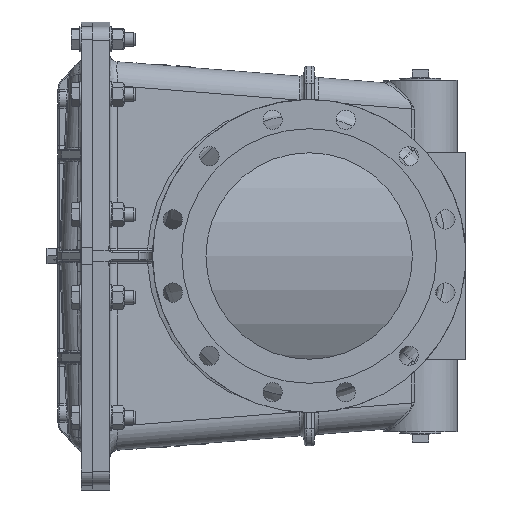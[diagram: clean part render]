
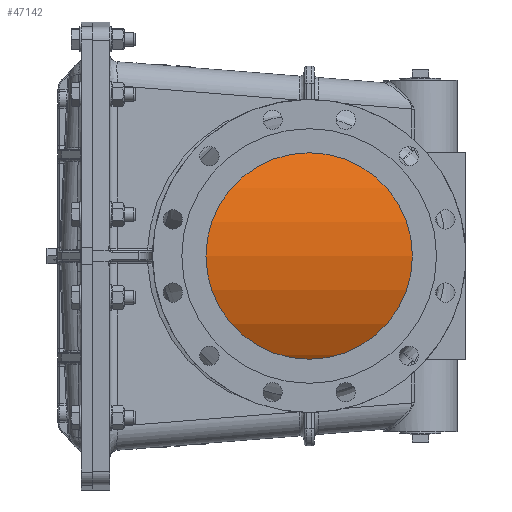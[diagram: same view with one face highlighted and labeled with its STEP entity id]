
A CAD part, left-side view. The second image highlights one B-rep face of the part: STEP entity #47142.
In plain terms, the highlighted cylindrical face has radius 289 mm (diameter 578 mm), a partial arc.
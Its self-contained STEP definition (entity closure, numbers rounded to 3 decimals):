
#2895=LINE('',#97435,#6321);
#2896=LINE('',#97437,#6322);
#6321=VECTOR('',#61193,10.);
#6322=VECTOR('',#61196,10.);
#9804=CYLINDRICAL_SURFACE('',#51383,289.);
#11965=FACE_OUTER_BOUND('',#15018,.T.);
#15018=EDGE_LOOP('',(#40382,#40383,#40384,#40385));
#18723=CIRCLE('',#51377,289.);
#18724=CIRCLE('',#51380,289.);
#22216=VERTEX_POINT('',#97405);
#22220=VERTEX_POINT('',#97414);
#22223=VERTEX_POINT('',#97424);
#22224=VERTEX_POINT('',#97426);
#28459=EDGE_CURVE('',#22216,#22220,#18723,.T.);
#28464=EDGE_CURVE('',#22224,#22223,#18724,.T.);
#28469=EDGE_CURVE('',#22220,#22224,#2895,.T.);
#28470=EDGE_CURVE('',#22216,#22223,#2896,.T.);
#40382=ORIENTED_EDGE('',*,*,#28459,.T.);
#40383=ORIENTED_EDGE('',*,*,#28469,.T.);
#40384=ORIENTED_EDGE('',*,*,#28464,.T.);
#40385=ORIENTED_EDGE('',*,*,#28470,.F.);
#47142=ADVANCED_FACE('',(#11965),#9804,.T.);
#51377=AXIS2_PLACEMENT_3D('',#97416,#61174,#61175);
#51380=AXIS2_PLACEMENT_3D('',#97427,#61184,#61185);
#51383=AXIS2_PLACEMENT_3D('',#97436,#61194,#61195);
#61174=DIRECTION('center_axis',(0.,0.,
1.));
#61175=DIRECTION('ref_axis',(0.64,0.768,0.));
#61184=DIRECTION('center_axis',(0.,0.,-1.));
#61185=DIRECTION('ref_axis',(0.64,0.768,0.));
#61193=DIRECTION('',(0.,0.,1.));
#61194=DIRECTION('center_axis',(0.,0.,1.));
#61195=DIRECTION('ref_axis',(0.64,0.768,0.));
#61196=DIRECTION('',(0.,0.,1.));
#97405=CARTESIAN_POINT('',(185.032,3.,12.));
#97414=CARTESIAN_POINT('',(-185.032,3.,12.));
#97416=CARTESIAN_POINT('Origin',(0.,-219.,12.));
#97424=CARTESIAN_POINT('',(185.032,3.,510.));
#97426=CARTESIAN_POINT('',(-185.032,3.,510.));
#97427=CARTESIAN_POINT('Origin',(0.,-219.,510.));
#97435=CARTESIAN_POINT('',(-185.032,3.,0.));
#97436=CARTESIAN_POINT('Origin',(0.,-219.,0.));
#97437=CARTESIAN_POINT('',(185.032,3.,0.));
